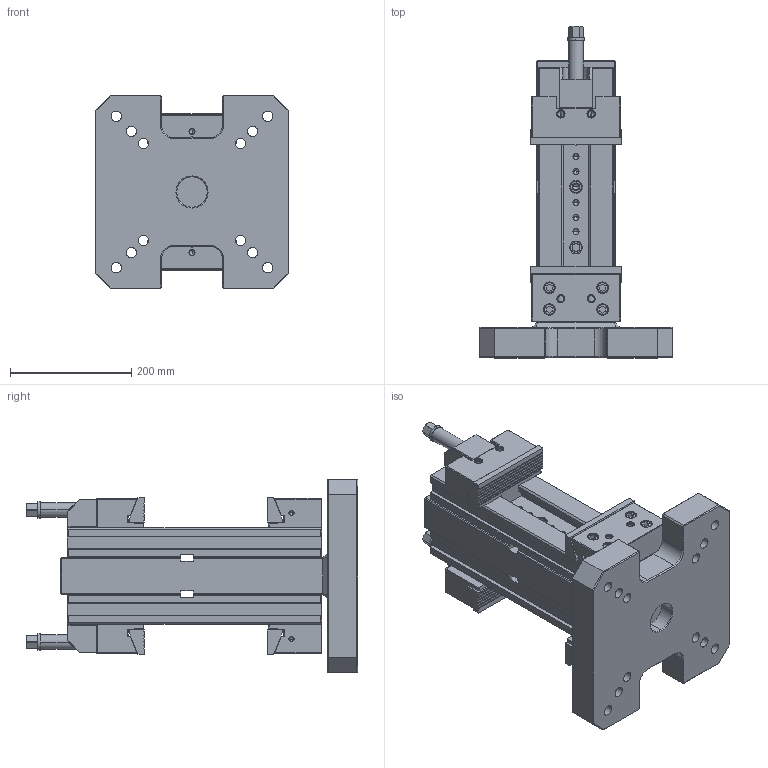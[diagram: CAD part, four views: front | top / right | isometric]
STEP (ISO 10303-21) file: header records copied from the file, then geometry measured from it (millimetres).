
FILE_DESCRIPTION((''),'2;1');
FILE_NAME('FG_WH_TOMB_00BKBNP004_ASM','2026-06-14T11:47:14',('Admin'),(''),'CREO PARAMETRIC BY PTC INC, 2025010','CREO PARAMETRIC BY PTC INC, 2025010','');
FILE_SCHEMA(('CONFIG_CONTROL_DESIGN'));
Length unit declared in the file: metre
Products named in the file (3): FG_WH_TOMB_00BKBNP004; MOVABLE_JAW_200_300_ASSEMBLY_1_; FG_WH_TOMB_00BKBNP004_ASM
Assembly tree (3 placements, depth 2):
  FG_WH_TOMB_00BKBNP004_ASM
    FG_WH_TOMB_00BKBNP004
    MOVABLE_JAW_200_300_ASSEMBLY_1_  x2
Bounding box: 320 x 547.5 x 320 mm (x, y, z)
Volume: 14223638 mm3; surface area: 1057869.9 mm2
Topology: 3 solids, 120 shells, 1839 faces, 4870 edges, 3147 vertices
Faces by surface type: plane 999, cylinder 538, cone 254, torus 40, extrusion 8
Entity records: 52380 total; most frequent: CARTESIAN_POINT 13879, DIRECTION 8062, ORIENTED_EDGE 7652, EDGE_CURVE 3974, AXIS2_PLACEMENT_3D 2769, VERTEX_POINT 2648, VECTOR 2524, LINE 2520
